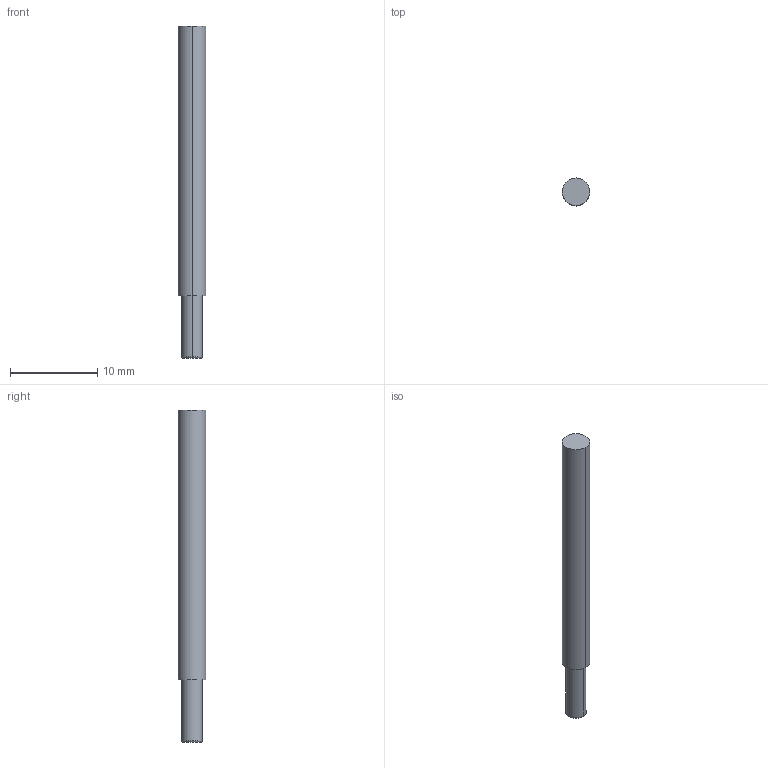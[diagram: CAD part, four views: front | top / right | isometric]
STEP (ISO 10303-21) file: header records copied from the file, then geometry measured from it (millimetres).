
FILE_DESCRIPTION((' '),'2;1');
FILE_NAME( '3MVR0938R.005AH.stp', '2026-01-21T19:05:29', (' '), ('--- Datakit www.datakit.com---'), ' Datakit CrossCadWare V2025.4 Sep 19 2025', 'Mastercam 2027', ' ');
FILE_SCHEMA(('AUTOMOTIVE_DESIGN { 1 0 10303 214 1 1 1 1 }'));
Length unit declared in the file: inch
Products named in the file (1): 3MVR0938R
Bounding box: 3.17 x 3.17 x 38.1 mm (x, y, z)
Volume: 276.9 mm3; surface area: 377.7 mm2
Topology: 1 solids, 1 shells, 9 faces, 16 edges, 10 vertices
Faces by surface type: cylinder 4, plane 3, torus 2
Entity records: 297 total; most frequent: DIRECTION 56, CARTESIAN_POINT 40, ORIENTED_EDGE 32, AXIS2_PLACEMENT_3D 26, EDGE_CURVE 16, CIRCLE 12, VERTEX_POINT 10, EDGE_LOOP 10
